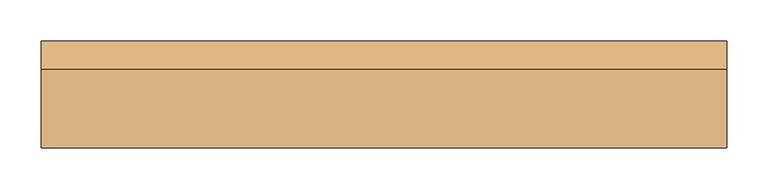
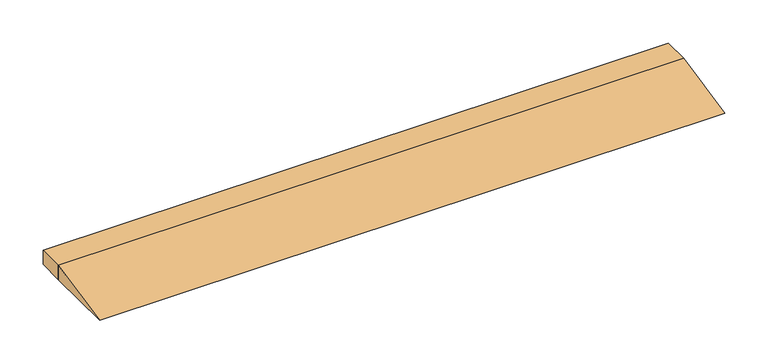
"""IFC4 building model written with IfcOpenShell, lengths in millimetres: door geometry, FDE_SO_Soleiras1 : SO14_SoleiraRampadaDesnívelAté2cm_L=14cm_Cimentado 2."""

from ifc_helpers import new_model, si_unit, frame, origin, place, context, project, spatial, polyline, outline, extrude, source, transform, mapped, element, save


def door_29174598(model_context):
    return source(origin(), model_context, "Body", "SweptSolid", [
        extrude(outline(polyline([(35.0, 0.0), (35.0, -20.0), (-60.0, -20.0), (35.0, 0.0)])), frame((-417.0, 0.0, 0.0), z_axis=(1.0, 0.0, 0.0), x_axis=(0.0, 1.0, 0.0)), (0.0, 0.0, 1.0), 834.0),
        extrude(outline(polyline([(417.0, 70.0), (417.0, 35.0), (-417.0, 35.0), (-417.0, 70.0), (417.0, 70.0)])), frame((0.0, 0.0, -20.0), z_axis=(0.0, 0.0, 1.0), x_axis=(1.0, 0.0, 0.0)), (0.0, 0.0, 1.0), 20.0),
    ])


if __name__ == "__main__":
    model = new_model("IFC4")
    model_context = context("Model", 3, world=origin())
    ifc_project = project(units=[si_unit("LENGTHUNIT", "METRE", prefix="MILLI")], contexts=[model_context])
    site = spatial("IfcSite", under=ifc_project)
    building = spatial("IfcBuilding", under=site)
    placement = place(None, origin())
    door_shape = door_29174598(model_context)
    element("IfcDoor", 1, ObjectType="FDE_SO_Soleiras1 : SO14_SoleiraRampadaDesnívelAté2cm_L=14cm_Cimentado 2", at=placement, inside=building, context=model_context, shape_type="MappedRepresentation", body=[
        mapped(door_shape, transform((0.0, 0.0, 0.0), x_axis=(1.0, 0.0, 0.0), y_axis=(0.0, 1.0, 0.0), z_axis=(0.0, 0.0, 1.0))),
    ])
    save(model, "model.ifc")
